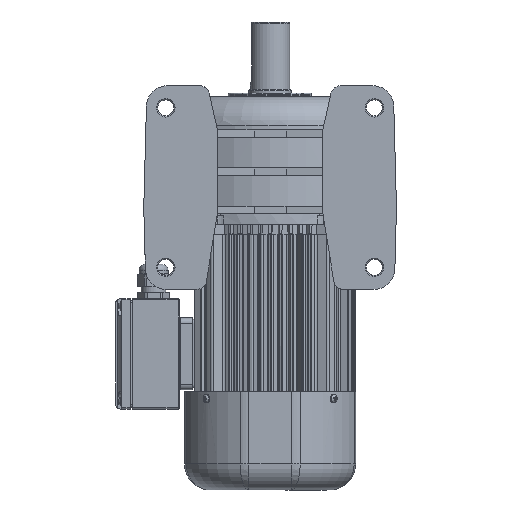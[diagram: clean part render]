
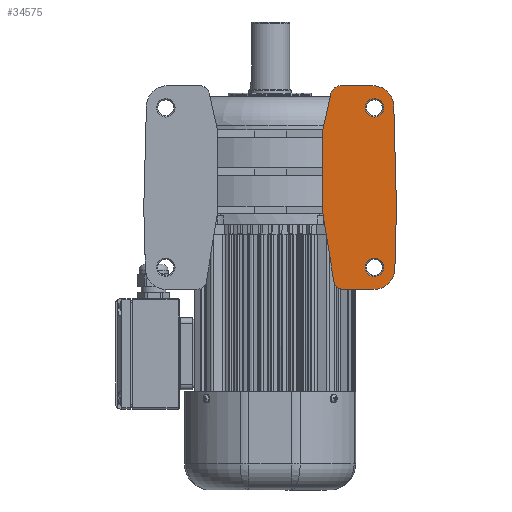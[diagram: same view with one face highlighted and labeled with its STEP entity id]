
A CAD part, front view. The second image highlights one B-rep face of the part: STEP entity #34575.
In plain terms, the highlighted planar face has unit normal (0, -1, 0).
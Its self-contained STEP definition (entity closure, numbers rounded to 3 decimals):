
#1097=LINE('',#54882,#3596);
#1207=LINE('',#57280,#3706);
#1217=LINE('',#57306,#3716);
#1221=LINE('',#58197,#3720);
#1393=LINE('',#59154,#3892);
#1396=LINE('',#59162,#3895);
#1399=LINE('',#59167,#3898);
#3596=VECTOR('',#41450,55.988);
#3706=VECTOR('',#41850,30.461);
#3716=VECTOR('',#41876,26.43);
#3720=VECTOR('',#41964,68.);
#3892=VECTOR('',#42416,24.872);
#3895=VECTOR('',#42425,50.462);
#3898=VECTOR('',#42430,82.473);
#6589=FACE_BOUND('',#9266,.T.);
#6590=FACE_BOUND('',#9267,.T.);
#7231=FACE_OUTER_BOUND('',#9265,.T.);
#9265=EDGE_LOOP('',(#23685,#23686,#23687,#23688,#23689,#23690,#23691,#23692,
#23693,#23694,#23695));
#9266=EDGE_LOOP('',(#23696));
#9267=EDGE_LOOP('',(#23697));
#11214=CIRCLE('',#36613,7.5);
#11232=CIRCLE('',#36648,7.5);
#11311=CIRCLE('',#36784,8.);
#11313=CIRCLE('',#36790,8.);
#11375=CIRCLE('',#36972,17.);
#11376=CIRCLE('',#36976,17.);
#13437=VERTEX_POINT('',#54806);
#13465=VERTEX_POINT('',#54880);
#13466=VERTEX_POINT('',#54881);
#13485=VERTEX_POINT('',#54939);
#13659=VERTEX_POINT('',#57278);
#13660=VERTEX_POINT('',#57279);
#13663=VERTEX_POINT('',#57290);
#13667=VERTEX_POINT('',#57304);
#13668=VERTEX_POINT('',#57305);
#13816=VERTEX_POINT('',#59153);
#13817=VERTEX_POINT('',#59157);
#13818=VERTEX_POINT('',#59161);
#13819=VERTEX_POINT('',#59166);
#16907=EDGE_CURVE('',#13437,#13437,#11214,.T.);
#16942=EDGE_CURVE('',#13465,#13466,#1097,.T.);
#16965=EDGE_CURVE('',#13485,#13485,#11232,.T.);
#17198=EDGE_CURVE('',#13659,#13660,#1207,.T.);
#17204=EDGE_CURVE('',#13663,#13465,#11311,.T.);
#17211=EDGE_CURVE('',#13667,#13668,#1217,.T.);
#17214=EDGE_CURVE('',#13660,#13667,#11313,.T.);
#17272=EDGE_CURVE('',#13466,#13659,#1221,.T.);
#17493=EDGE_CURVE('',#13816,#13663,#1393,.T.);
#17495=EDGE_CURVE('',#13817,#13816,#11375,.T.);
#17497=EDGE_CURVE('',#13818,#13817,#1396,.T.);
#17500=EDGE_CURVE('',#13819,#13818,#1399,.T.);
#17502=EDGE_CURVE('',#13668,#13819,#11376,.T.);
#23685=ORIENTED_EDGE('',*,*,#17204,.F.);
#23686=ORIENTED_EDGE('',*,*,#17493,.F.);
#23687=ORIENTED_EDGE('',*,*,#17495,.F.);
#23688=ORIENTED_EDGE('',*,*,#17497,.F.);
#23689=ORIENTED_EDGE('',*,*,#17500,.F.);
#23690=ORIENTED_EDGE('',*,*,#17502,.F.);
#23691=ORIENTED_EDGE('',*,*,#17211,.F.);
#23692=ORIENTED_EDGE('',*,*,#17214,.F.);
#23693=ORIENTED_EDGE('',*,*,#17198,.F.);
#23694=ORIENTED_EDGE('',*,*,#17272,.F.);
#23695=ORIENTED_EDGE('',*,*,#16942,.F.);
#23696=ORIENTED_EDGE('',*,*,#16965,.F.);
#23697=ORIENTED_EDGE('',*,*,#16907,.F.);
#31807=PLANE('',#36977);
#34575=ADVANCED_FACE('',(#7231,#6589,#6590),#31807,.F.);
#36613=AXIS2_PLACEMENT_3D('',#54808,#41382,#41383);
#36648=AXIS2_PLACEMENT_3D('',#54941,#41489,#41490);
#36784=AXIS2_PLACEMENT_3D('',#57291,#41861,#41862);
#36790=AXIS2_PLACEMENT_3D('',#57310,#41881,#41882);
#36972=AXIS2_PLACEMENT_3D('',#59158,#42420,#42421);
#36976=AXIS2_PLACEMENT_3D('',#59170,#42434,#42435);
#36977=AXIS2_PLACEMENT_3D('',#59171,#42436,#42437);
#41382=DIRECTION('center_axis',(0.,-1.,0.));
#41383=DIRECTION('ref_axis',(-1.,0.,0.));
#41450=DIRECTION('',(-0.159,0.,0.987));
#41489=DIRECTION('center_axis',(0.,-1.,0.));
#41490=DIRECTION('ref_axis',(-1.,0.,0.));
#41850=DIRECTION('',(0.217,0.,0.976));
#41861=DIRECTION('center_axis',(0.,1.,0.));
#41862=DIRECTION('ref_axis',(-0.648,0.,-0.761));
#41876=DIRECTION('',(1.,0.,0.));
#41881=DIRECTION('center_axis',(0.,1.,0.));
#41882=DIRECTION('ref_axis',(-0.626,0.,0.78));
#41964=DIRECTION('',(0.,0.,1.));
#42416=DIRECTION('',(-1.,0.,0.));
#42420=DIRECTION('center_axis',(0.,1.,0.));
#42421=DIRECTION('ref_axis',(0.698,0.,-0.716));
#42425=DIRECTION('',(-0.026,0.,-1.));
#42430=DIRECTION('',(0.026,0.,-1.));
#42434=DIRECTION('center_axis',(0.,1.,0.));
#42435=DIRECTION('ref_axis',(0.698,0.,0.716));
#42436=DIRECTION('center_axis',(0.,1.,0.));
#42437=DIRECTION('ref_axis',(0.,0.,1.));
#54806=CARTESIAN_POINT('',(95.679,-105.928,-91.));
#54808=CARTESIAN_POINT('Origin',(88.179,-105.928,-91.));
#54880=CARTESIAN_POINT('',(55.094,-105.928,-102.274));
#54881=CARTESIAN_POINT('',(46.179,-105.928,-47.));
#54882=CARTESIAN_POINT('',(55.094,-105.928,-102.274));
#54939=CARTESIAN_POINT('',(95.679,-105.928,39.));
#54941=CARTESIAN_POINT('Origin',(88.179,-105.928,39.));
#57278=CARTESIAN_POINT('',(46.179,-105.928,21.));
#57279=CARTESIAN_POINT('',(52.786,-105.928,50.735));
#57280=CARTESIAN_POINT('',(46.179,-105.928,21.));
#57290=CARTESIAN_POINT('',(62.992,-105.928,-109.));
#57291=CARTESIAN_POINT('Origin',(62.992,-105.928,-101.));
#57304=CARTESIAN_POINT('',(60.596,-105.928,57.));
#57305=CARTESIAN_POINT('',(87.025,-105.928,57.));
#57306=CARTESIAN_POINT('',(60.596,-105.928,57.));
#57310=CARTESIAN_POINT('Origin',(60.596,-105.928,49.));
#58197=CARTESIAN_POINT('',(46.179,-105.928,-47.));
#59153=CARTESIAN_POINT('',(87.863,-105.928,-109.));
#59154=CARTESIAN_POINT('',(87.863,-105.928,-109.));
#59157=CARTESIAN_POINT('',(104.858,-105.928,-92.445));
#59158=CARTESIAN_POINT('Origin',(87.863,-105.928,-92.));
#59161=CARTESIAN_POINT('',(106.179,-105.928,-42.));
#59162=CARTESIAN_POINT('',(106.179,-105.928,-42.));
#59166=CARTESIAN_POINT('',(104.02,-105.928,40.445));
#59167=CARTESIAN_POINT('',(104.02,-105.928,40.445));
#59170=CARTESIAN_POINT('Origin',(87.025,-105.928,40.));
#59171=CARTESIAN_POINT('Origin',(3.679,-105.928,-26.));
